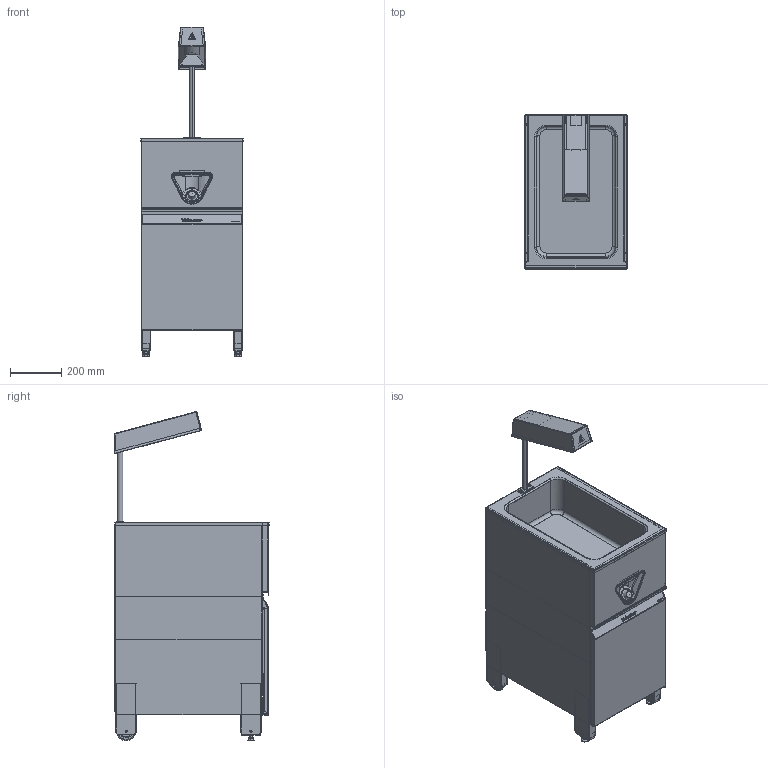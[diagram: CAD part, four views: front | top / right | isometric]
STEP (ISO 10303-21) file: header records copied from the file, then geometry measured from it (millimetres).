
FILE_DESCRIPTION(/* description */ (''),/* implementation_level */ '2;1');
FILE_NAME(/* name */ 'CORE_Station',/* time_stamp */ '2026-05-04T14:04:35+02:00',/* author */ (''),/* organization */ (''),/* preprocessor_version */ 'ST-DEVELOPER v19.2',/* originating_system */ 'Rhino 8.23',/* authorisation */ '');
FILE_SCHEMA (('CONFIG_CONTROL_DESIGN'));
Products named in the file (1): Document
Bounding box: 398 x 600 x 1280.72 mm (x, y, z)
Volume: 3969527.4 mm3; surface area: 7253902.8 mm2
Topology: 68 solids, 70 shells, 3697 faces, 10234 edges, 7140 vertices
Faces by surface type: plane 2178, cylinder 994, bspline 525
Entity records: 133430 total; most frequent: CARTESIAN_POINT 60633, ORIENTED_EDGE 15966, DIRECTION 8160, EDGE_CURVE 7984, B_SPLINE_CURVE_WITH_KNOTS 7641, AXIS2_PLACEMENT_3D 5666, VERTEX_POINT 4902, EDGE_LOOP 3718
